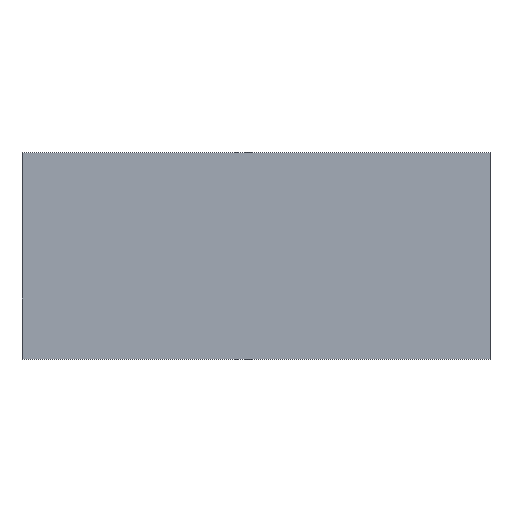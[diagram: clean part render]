
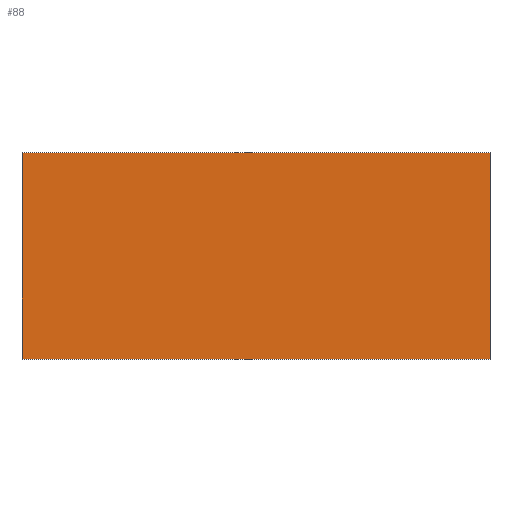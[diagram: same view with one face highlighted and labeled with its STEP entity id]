
A CAD part, top view. The second image highlights one B-rep face of the part: STEP entity #88.
In plain terms, the highlighted planar face has unit normal (0, 0, 1).
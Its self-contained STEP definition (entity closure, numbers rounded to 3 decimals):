
#88 = ADVANCED_FACE( '', ( #179 ), #180, .T. );
#179 = FACE_OUTER_BOUND( '', #268, .T. );
#180 = PLANE( '', #269 );
#268 = EDGE_LOOP( '', ( #455, #456, #457, #458 ) );
#269 = AXIS2_PLACEMENT_3D( '', #459, #460, #461 );
#455 = ORIENTED_EDGE( '', *, *, #558, .T. );
#456 = ORIENTED_EDGE( '', *, *, #540, .T. );
#457 = ORIENTED_EDGE( '', *, *, #591, .T. );
#458 = ORIENTED_EDGE( '', *, *, #575, .T. );
#459 = CARTESIAN_POINT( '', ( 0., 0., 0. ) );
#460 = DIRECTION( '', ( 0., 0., 1. ) );
#461 = DIRECTION( '', ( 1., 0., 0. ) );
#540 = EDGE_CURVE( '', #643, #644, #645, .T. );
#558 = EDGE_CURVE( '', #670, #643, #671, .T. );
#575 = EDGE_CURVE( '', #697, #670, #698, .T. );
#591 = EDGE_CURVE( '', #644, #697, #717, .T. );
#643 = VERTEX_POINT( '', #788 );
#644 = VERTEX_POINT( '', #789 );
#645 = LINE( '', #790, #791 );
#670 = VERTEX_POINT( '', #827 );
#671 = LINE( '', #828, #829 );
#697 = VERTEX_POINT( '', #867 );
#698 = LINE( '', #868, #869 );
#717 = LINE( '', #898, #899 );
#788 = CARTESIAN_POINT( '', ( -22.7, 14.2, 0. ) );
#789 = CARTESIAN_POINT( '', ( -22.7, -27.8, 0. ) );
#790 = CARTESIAN_POINT( '', ( -22.7, 14.2, 0. ) );
#791 = VECTOR( '', #932, 1000. );
#827 = CARTESIAN_POINT( '', ( 72.7, 14.2, 0. ) );
#828 = CARTESIAN_POINT( '', ( 72.7, 14.2, 0. ) );
#829 = VECTOR( '', #947, 1000. );
#867 = CARTESIAN_POINT( '', ( 72.7, -27.8, 0. ) );
#868 = CARTESIAN_POINT( '', ( 72.7, -27.8, 0. ) );
#869 = VECTOR( '', #960, 1000. );
#898 = CARTESIAN_POINT( '', ( -22.7, -27.8, 0. ) );
#899 = VECTOR( '', #971, 1000. );
#932 = DIRECTION( '', ( 0., -1., 0. ) );
#947 = DIRECTION( '', ( -1., 0., 0. ) );
#960 = DIRECTION( '', ( 0., 1., 0. ) );
#971 = DIRECTION( '', ( 1., 0., 0. ) );
